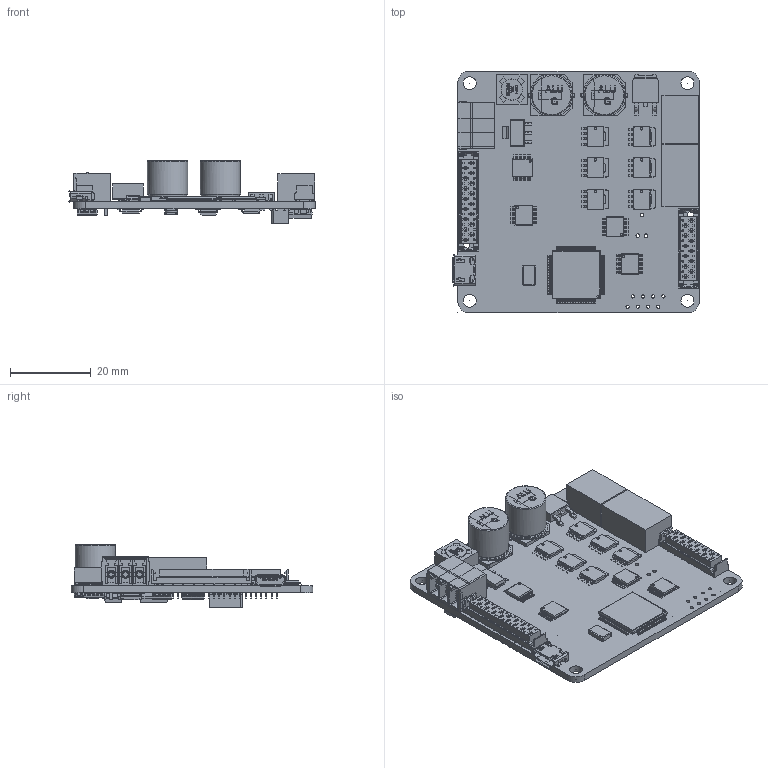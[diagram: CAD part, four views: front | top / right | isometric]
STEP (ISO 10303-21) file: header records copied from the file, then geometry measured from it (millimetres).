
FILE_DESCRIPTION (( 'STEP AP214' ), '1' );
FILE_NAME ('i021-01H1_3Dnude.STEP', '2016-04-12T10:18:25', ( '' ), ( '' ), 'SwSTEP 2.0', 'SolidWorks 2016', '' );
FILE_SCHEMA (( 'AUTOMOTIVE_DESIGN' ));
Length unit declared in the file: millimetre
Products named in the file (2): i021-01H1_3Dnude
Bounding box: 61.27 x 60 x 15.6 mm (x, y, z)
Surface area: 18993.5 mm2 (no closed solid volume)
Topology: 0 solids, 871 shells, 10482 faces, 30173 edges, 20829 vertices
Faces by surface type: plane 7577, cylinder 2230, bspline 569, torus 55, sphere 40, cone 11
Full cylindrical faces by diameter (mm): 0.455 x4, 0.527 x6, 0.6 x7, 0.713 x8, 0.8 x8, 0.9 x3, 1.4 x10, 1.5 x2, 1.778 x7, 3 x1, 3.2 x4, 5.2 x1, 5.25 x1, 10 x4
Entity records: 475740 total; most frequent: CARTESIAN_POINT 89719, ORIENTED_EDGE 56188, DIRECTION 52247, EDGE_CURVE 29973, LINE 23763, VECTOR 23763, VERTEX_POINT 20769, AXIS2_PLACEMENT_3D 14242
